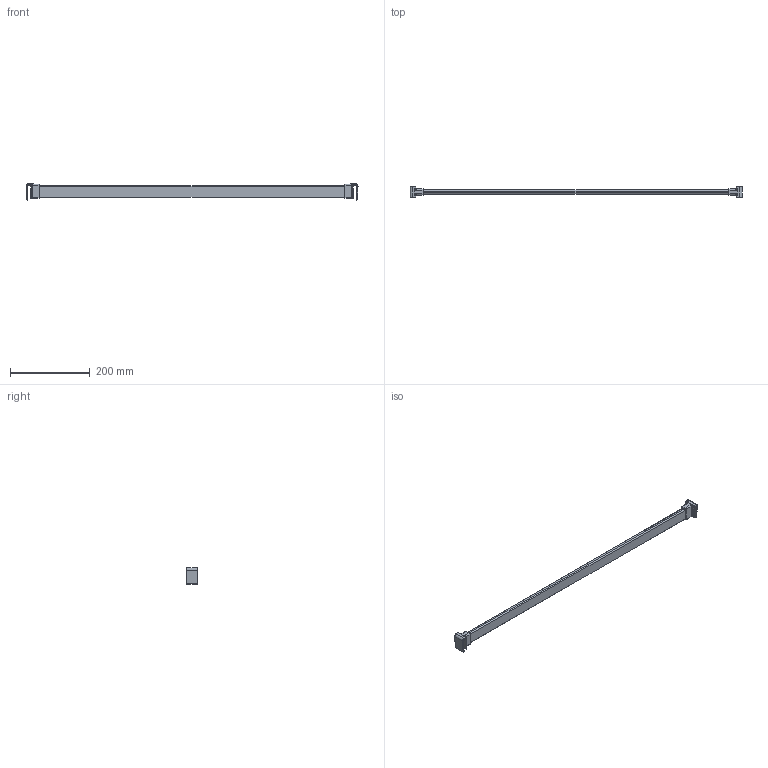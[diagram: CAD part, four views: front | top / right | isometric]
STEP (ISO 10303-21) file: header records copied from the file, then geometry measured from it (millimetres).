
FILE_DESCRIPTION (( 'STEP AP214' ), '1' );
FILE_NAME ('_Querreling_KAB-900_KS-19_P602_Glashalter.step', '2010-08-26T14:58:53', ( 'grass' ), ( '' ), 'SwSTEP 2.0', 'SolidWorks 2009', '' );
FILE_SCHEMA (( 'AUTOMOTIVE_DESIGN' ));
Length unit declared in the file: millimetre
Products named in the file (1): _Querreling_KAB-900_KS-19_P602_Glashalter
Bounding box: 834.78 x 30 x 41.5 mm (x, y, z)
Volume: 272443.8 mm3; surface area: 73283.8 mm2
Topology: 1 solids, 1 shells, 124 faces, 300 edges, 176 vertices
Faces by surface type: cylinder 58, plane 34, torus 16, bspline 12, sphere 4
Entity records: 5090 total; most frequent: CARTESIAN_POINT 2269, ORIENTED_EDGE 592, DIRECTION 590, EDGE_CURVE 296, AXIS2_PLACEMENT_3D 225, VERTEX_POINT 176, LINE 140, VECTOR 140
